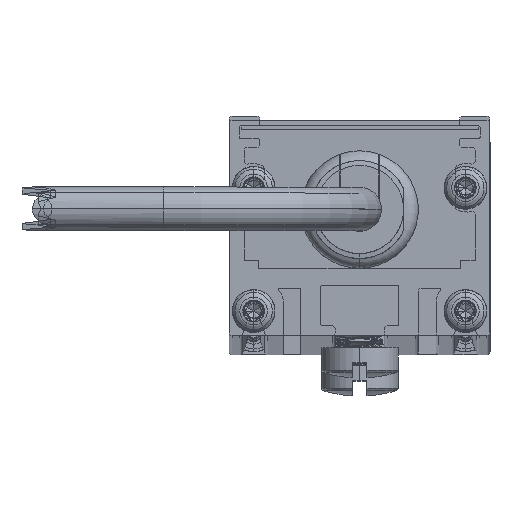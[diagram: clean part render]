
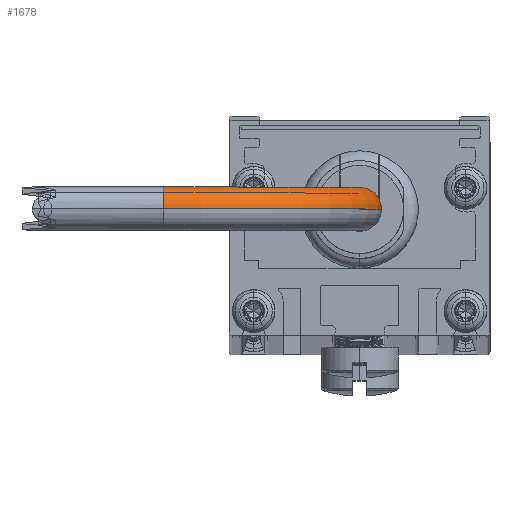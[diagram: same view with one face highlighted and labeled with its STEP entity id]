
A CAD part, top view. The second image highlights one B-rep face of the part: STEP entity #1678.
In plain terms, the highlighted toroidal (fillet/blend) face has major radius 25.4 mm and minor radius 2.845 mm.
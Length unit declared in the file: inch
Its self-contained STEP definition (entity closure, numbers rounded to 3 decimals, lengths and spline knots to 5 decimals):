
#10 = ORIENTED_EDGE ( 'NONE', *, *, #14100, .T. ) ;
#528 = DIRECTION ( 'NONE',  ( 0., -1., 0. ) ) ;
#1048 = EDGE_CURVE ( 'NONE', #8517, #1562, #3459, .T. ) ;
#1167 = AXIS2_PLACEMENT_3D ( 'NONE', #2727, #2785, #12908 ) ;
#1562 = VERTEX_POINT ( 'NONE', #1742 ) ;
#1645 = FACE_OUTER_BOUND ( 'NONE', #14518, .T. ) ;
#1678 = ADVANCED_FACE ( 'NONE', ( #1645 ), #8391, .T. ) ;
#1742 = CARTESIAN_POINT ( 'NONE',  ( -0.112, 0., -1. ) ) ;
#2325 = DIRECTION ( 'NONE',  ( 0., -1., 0. ) ) ;
#2727 = CARTESIAN_POINT ( 'NONE',  ( 0., 0., -1. ) ) ;
#2785 = DIRECTION ( 'NONE',  ( 0., 0., 1. ) ) ;
#3459 = CIRCLE ( 'NONE', #1167, 0.112 ) ;
#3607 = DIRECTION ( 'NONE',  ( 0., 0., -1. ) ) ;
#3833 = CARTESIAN_POINT ( 'NONE',  ( 1., 0., -1. ) ) ;
#3941 = ORIENTED_EDGE ( 'NONE', *, *, #9286, .F. ) ;
#4730 = EDGE_CURVE ( 'NONE', #8517, #14030, #13570, .T. ) ;
#6424 = CARTESIAN_POINT ( 'NONE',  ( 1., 0., -1. ) ) ;
#7154 = CARTESIAN_POINT ( 'NONE',  ( 1., 0., -2. ) ) ;
#7247 = CARTESIAN_POINT ( 'NONE',  ( 0.112, 0., -1. ) ) ;
#7610 = CARTESIAN_POINT ( 'NONE',  ( 1., 0., -2.112 ) ) ;
#8391 = TOROIDAL_SURFACE ( 'NONE', #10192, 1., 0.112 ) ;
#8517 = VERTEX_POINT ( 'NONE', #7247 ) ;
#9258 = DIRECTION ( 'NONE',  ( 1., 0., 0. ) ) ;
#9286 = EDGE_CURVE ( 'NONE', #1562, #18006, #12529, .T. ) ;
#10192 = AXIS2_PLACEMENT_3D ( 'NONE', #6424, #528, #3607 ) ;
#10484 = CIRCLE ( 'NONE', #13017, 0.112 ) ;
#10596 = DIRECTION ( 'NONE',  ( 0., -1., 0. ) ) ;
#10852 = ORIENTED_EDGE ( 'NONE', *, *, #1048, .F. ) ;
#11962 = DIRECTION ( 'NONE',  ( 0., 0., 1. ) ) ;
#12189 = ORIENTED_EDGE ( 'NONE', *, *, #4730, .T. ) ;
#12529 = CIRCLE ( 'NONE', #16129, 1.112 ) ;
#12908 = DIRECTION ( 'NONE',  ( 1., 0., 0. ) ) ;
#13017 = AXIS2_PLACEMENT_3D ( 'NONE', #7154, #15727, #11962 ) ;
#13570 = CIRCLE ( 'NONE', #13583, 0.888 ) ;
#13583 = AXIS2_PLACEMENT_3D ( 'NONE', #13674, #10596, #9258 ) ;
#13640 = CARTESIAN_POINT ( 'NONE',  ( 1., 0., -1.888 ) ) ;
#13674 = CARTESIAN_POINT ( 'NONE',  ( 1., 0., -1. ) ) ;
#13901 = DIRECTION ( 'NONE',  ( 1., 0., 0. ) ) ;
#14030 = VERTEX_POINT ( 'NONE', #13640 ) ;
#14100 = EDGE_CURVE ( 'NONE', #14030, #18006, #10484, .T. ) ;
#14518 = EDGE_LOOP ( 'NONE', ( #3941, #10852, #12189, #10 ) ) ;
#15727 = DIRECTION ( 'NONE',  ( -1., 0., 0. ) ) ;
#16129 = AXIS2_PLACEMENT_3D ( 'NONE', #3833, #2325, #13901 ) ;
#18006 = VERTEX_POINT ( 'NONE', #7610 ) ;
